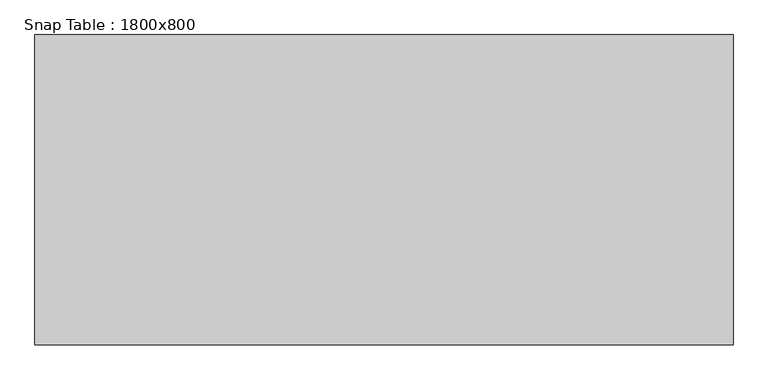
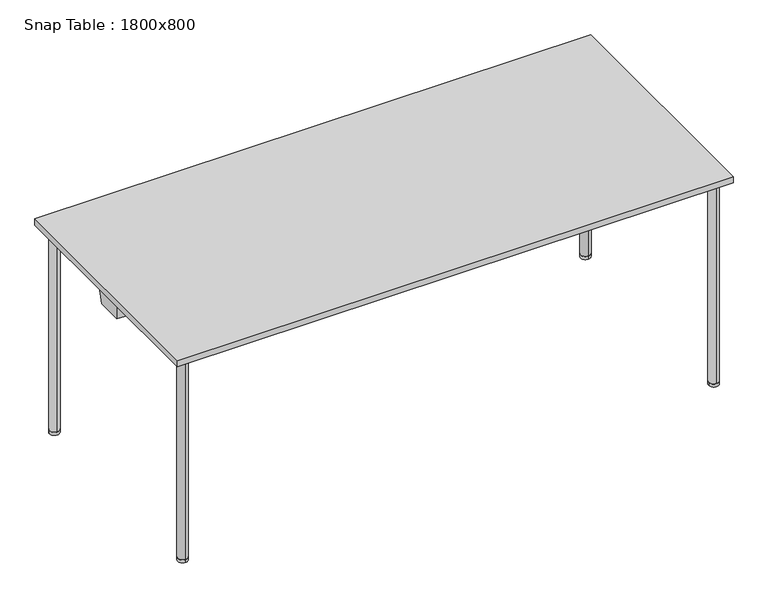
"""IFC4 building model written with IfcOpenShell, lengths in millimetres: furniture geometry, Snap Table : 1800x800."""

import ifcopenshell
import ifcopenshell.guid

model = None  # the IFC model being written
_history = None  # IfcOwnerHistory: only IFC2X3 demands one
_inside = {}  # id of a spatial element -> (the spatial element, [elements in it])
_under = {}  # id of a project, library or spatial element -> (it, [spatial elements below it])
_declared = {}  # id of a project -> (the project, [libraries it declares])
_typed = {}  # id of a type object -> (the type object, [elements of that type])
_made_of = {}  # id of a material, layer set ... -> (it, [elements and type objects made of it])


def new_model(schema):
    """Start an empty IFC model of exactly this schema.

    Asked for "IFC4X3", IfcOpenShell would pick the latest addendum, in which some entities
    have other attributes; the version numbers below select the first issue.
    IFC2X3 requires an IfcOwnerHistory on every rooted entity: one is made here for all.
    """
    global model, _history
    if schema == "IFC4X3":
        model = ifcopenshell.file(schema_version=(4, 3, 0, 0))
    else:
        model = ifcopenshell.file(schema=schema)
    _inside.clear()
    _under.clear()
    _declared.clear()
    _typed.clear()
    _made_of.clear()
    _history = None
    if model.schema == "IFC2X3":
        org = make("IfcOrganization", Name="unknown")
        user = make(
            "IfcPersonAndOrganization",
            ThePerson=make("IfcPerson", FamilyName="unknown"),
            TheOrganization=org,
        )
        app = make(
            "IfcApplication",
            ApplicationDeveloper=org,
            Version="unknown",
            ApplicationFullName="unknown",
            ApplicationIdentifier="unknown",
        )
        _history = make(
            "IfcOwnerHistory",
            OwningUser=user,
            OwningApplication=app,
            ChangeAction="ADDED",
            CreationDate=0,
        )
    return model


def make(cls, **values):
    """One entity of the class cls with the attributes given. An attribute that is None is left unset."""
    return model.create_entity(
        cls, **{name: value for name, value in values.items() if value is not None}
    )


def rooted(cls, **values):
    """An entity with a GlobalId (a new one), such as an element, a storey or a relation."""
    return make(cls, GlobalId=ifcopenshell.guid.new(), OwnerHistory=_history, **values)


def si_unit(unit_type, name, prefix=None):
    """IfcSIUnit, for example si_unit("LENGTHUNIT", "METRE", prefix="MILLI")."""
    return make("IfcSIUnit", UnitType=unit_type, Prefix=prefix, Name=name)


def assignment(units):
    """IfcUnitAssignment: the units of a project."""
    return None if units is None else make("IfcUnitAssignment", Units=units)


def point(xyz):
    """IfcCartesianPoint."""
    return None if xyz is None else make("IfcCartesianPoint", Coordinates=xyz)


def direction(xyz):
    """IfcDirection."""
    return None if xyz is None else make("IfcDirection", DirectionRatios=xyz)


def frame(location, z_axis=None, x_axis=None):
    """IfcAxis2Placement3D, a coordinate frame: its origin and axes. An axis left out is left unset."""
    return make(
        "IfcAxis2Placement3D",
        Location=point(location),
        Axis=direction(z_axis),
        RefDirection=direction(x_axis),
    )


def frame_2d(location, x_axis=None):
    """IfcAxis2Placement2D, a coordinate frame in the plane: its origin and x axis."""
    return make(
        "IfcAxis2Placement2D", Location=point(location), RefDirection=direction(x_axis)
    )


def origin():
    """The frame at (0, 0, 0) with its axes left unset."""
    return frame((0.0, 0.0, 0.0))


def origin_with_axes():
    """The frame at (0, 0, 0) with the z axis (0, 0, 1) and the x axis (1, 0, 0) written out."""
    return frame((0.0, 0.0, 0.0), z_axis=(0.0, 0.0, 1.0), x_axis=(1.0, 0.0, 0.0))


def place(relative_to, where):
    """IfcLocalPlacement: puts the frame where relative to a parent placement (None: the world)."""
    return make(
        "IfcLocalPlacement", PlacementRelTo=relative_to, RelativePlacement=where
    )


def context(
    kind, dimensions, precision=None, world=None, true_north=None, identifier=None
):
    """IfcGeometricRepresentationContext, for example the 3D "Model" context."""
    return make(
        "IfcGeometricRepresentationContext",
        ContextIdentifier=identifier,
        ContextType=kind,
        CoordinateSpaceDimension=dimensions,
        Precision=precision,
        WorldCoordinateSystem=world,
        TrueNorth=true_north,
    )


def project(units=None, contexts=None):
    """IfcProject with its units and contexts."""
    return rooted(
        "IfcProject",
        Name="project",
        RepresentationContexts=contexts,
        UnitsInContext=assignment(units),
    )


def spatial(cls, under=None, at=None, **own):
    """A site, building, storey or space (cls), placed at a placement, below another one or the project."""
    s = rooted(cls, ObjectPlacement=at, **own)
    if under is not None:
        _under.setdefault(under.id(), (under, []))[1].append(s)
    return s


def polyline(points):
    """IfcPolyline through the points."""
    return make("IfcPolyline", Points=[point(p) for p in points])


def circle_curve(where, radius):
    """IfcCircle in the frame where."""
    return make("IfcCircle", Position=where, Radius=radius)


def ellipse_curve(where, semi_axis1, semi_axis2):
    """IfcEllipse in the frame where."""
    return make(
        "IfcEllipse", Position=where, SemiAxis1=semi_axis1, SemiAxis2=semi_axis2
    )


def trimmed(basis, trim1, trim2, sense, master):
    """IfcTrimmedCurve: the piece of a basis curve between two trims."""
    return make(
        "IfcTrimmedCurve",
        BasisCurve=basis,
        Trim1=trim1,
        Trim2=trim2,
        SenseAgreement=sense,
        MasterRepresentation=master,
    )


def segment(curve, same_sense, transition):
    """IfcCompositeCurveSegment."""
    return make(
        "IfcCompositeCurveSegment",
        Transition=transition,
        SameSense=same_sense,
        ParentCurve=curve,
    )


def composite_curve(segments, self_intersect=None):
    """IfcCompositeCurve: segments joined end to end."""
    return make("IfcCompositeCurve", Segments=segments, SelfIntersect=self_intersect)


def outline(outer, holes=None, kind="AREA"):
    """IfcArbitraryClosedProfileDef: a profile drawn as a closed curve; with holes, ...WithVoids."""
    if holes is None:
        return make("IfcArbitraryClosedProfileDef", ProfileType=kind, OuterCurve=outer)
    return make(
        "IfcArbitraryProfileDefWithVoids",
        ProfileType=kind,
        OuterCurve=outer,
        InnerCurves=holes,
    )


def extrude(swept, where, along, depth):
    """IfcExtrudedAreaSolid: the profile swept, set in the frame where, extruded along a direction by depth."""
    return make(
        "IfcExtrudedAreaSolid",
        SweptArea=swept,
        Position=where,
        ExtrudedDirection=direction(along),
        Depth=depth,
    )


def faces_of(points, faces, orient=None, outer=None):
    """IfcFace entities. A face is a list of loops; a loop is a list of indices into points, from 0.

    orient and outer hold one flag for each loop. By default every Orientation is true, the
    first loop of a face is its IfcFaceOuterBound and the others are IfcFaceBound.
    """
    made = []
    for i, loops in enumerate(faces):
        bounds = []
        for j, loop in enumerate(loops):
            is_outer = j == 0 if outer is None else outer[i][j]
            bounds.append(
                make(
                    "IfcFaceOuterBound" if is_outer else "IfcFaceBound",
                    Bound=make("IfcPolyLoop", Polygon=[points[k] for k in loop]),
                    Orientation=True if orient is None else orient[i][j],
                )
            )
        made.append(make("IfcFace", Bounds=bounds))
    return made


def faceted_brep(points, faces, orient=None, outer=None, voids=None):
    """IfcFacetedBrep: a solid bounded by flat faces; with voids (closed shells), ...WithVoids."""
    shared = [point(p) for p in points]
    hull = make("IfcClosedShell", CfsFaces=faces_of(shared, faces, orient, outer))
    if voids is None:
        return make("IfcFacetedBrep", Outer=hull)
    return make(
        "IfcFacetedBrepWithVoids",
        Outer=hull,
        Voids=[
            make(cls, CfsFaces=faces_of(shared, fs, o, b)) for cls, fs, o, b in voids
        ],
    )


def shape(context_of_items, identifier, shape_type, items):
    """IfcShapeRepresentation: the items that make up one representation, for example the "Body"."""
    return make(
        "IfcShapeRepresentation",
        ContextOfItems=context_of_items,
        RepresentationIdentifier=identifier,
        RepresentationType=shape_type,
        Items=items,
    )


def source(mapping_origin, context_of_items, identifier, shape_type, items):
    """IfcRepresentationMap: a shape defined once, which mapped items show again and again."""
    return make(
        "IfcRepresentationMap",
        MappingOrigin=mapping_origin,
        MappedRepresentation=shape(context_of_items, identifier, shape_type, items),
    )


def transform(
    local_origin,
    x_axis=None,
    y_axis=None,
    z_axis=None,
    scale=None,
    scale2=None,
    scale3=None,
    uniform=True,
):
    """IfcCartesianTransformationOperator3D, or its non-uniform kind. x_axis, y_axis, z_axis: its Axis1, 2, 3."""
    if uniform:
        return make(
            "IfcCartesianTransformationOperator3D",
            Axis1=direction(x_axis),
            Axis2=direction(y_axis),
            LocalOrigin=point(local_origin),
            Scale=scale,
            Axis3=direction(z_axis),
        )
    return make(
        "IfcCartesianTransformationOperator3DnonUniform",
        Axis1=direction(x_axis),
        Axis2=direction(y_axis),
        LocalOrigin=point(local_origin),
        Scale=scale,
        Axis3=direction(z_axis),
        Scale2=scale2,
        Scale3=scale3,
    )


def mapped(mapping_source, mapping_target):
    """IfcMappedItem: shows the shape of a source again, moved by a transform."""
    return make(
        "IfcMappedItem", MappingSource=mapping_source, MappingTarget=mapping_target
    )


def made_of(thing, what):
    """Note that an element or type object is made of a material, layer set ...; save() writes the relation."""
    if what is not None:
        _made_of.setdefault(what.id(), (what, []))[1].append(thing)
    return thing


def element(
    cls,
    number,
    at=None,
    inside=None,
    cuts=None,
    type_object=None,
    material=None,
    context=None,
    identifier="Body",
    shape_type=None,
    held_by="IfcProductDefinitionShape",
    body=None,
    shapes=None,
    **own,
):
    """One element of the class cls, such as IfcWall. Its Tag is "e" and its number.

    at: its placement. inside: the storey or other place that contains it. cuts: it is an
    opening in that element (IfcRelVoidsElement). A single representation is given by context,
    identifier, shape_type and body (its items); several are given by shapes. held_by: the class
    of the entity that holds the representations. save() writes the other relations.
    """
    e = rooted(cls, Tag="e%d" % number, ObjectPlacement=at, **own)
    if body is not None:
        shapes = [shape(context, identifier, shape_type, body)]
    if shapes is not None:
        e.Representation = make(held_by, Representations=shapes)
    if inside is not None:
        _inside.setdefault(inside.id(), (inside, []))[1].append(e)
    if cuts is not None:
        rooted(
            "IfcRelVoidsElement", RelatingBuildingElement=cuts, RelatedOpeningElement=e
        )
    if type_object is not None:
        _typed.setdefault(type_object.id(), (type_object, []))[1].append(e)
    return made_of(e, material)


def aggregate(whole, parts):
    """IfcRelAggregates: a whole, such as a stair, and the parts it consists of."""
    return rooted("IfcRelAggregates", RelatingObject=whole, RelatedObjects=parts)


def save(model, path):
    """Write the relations noted so far, then the file.

    IfcRelAggregates (storeys below a building ...), IfcRelContainedInSpatialStructure (elements
    in a storey), IfcRelDefinesByType, IfcRelAssociatesMaterial and IfcRelDeclares: one each for
    every whole, place, type object, material and project.
    """
    for whole, parts in _under.values():
        aggregate(whole, parts)
    for where, things in _inside.values():
        rooted(
            "IfcRelContainedInSpatialStructure",
            RelatedElements=things,
            RelatingStructure=where,
        )
    for kind, things in _typed.values():
        rooted("IfcRelDefinesByType", RelatedObjects=things, RelatingType=kind)
    for what, things in _made_of.values():
        rooted("IfcRelAssociatesMaterial", RelatedObjects=things, RelatingMaterial=what)
    for by, libraries in _declared.values():
        rooted("IfcRelDeclares", RelatingContext=by, RelatedDefinitions=libraries)
    model.write(path)


def plane_surface(at):
    """IfcPlane: the flat surface through the origin of the frame at, square to its z axis."""
    return make("IfcPlane", Position=at)


def cylinder_surface(at, radius):
    """IfcCylindricalSurface: all points at the distance radius from the z axis of the frame at."""
    return make("IfcCylindricalSurface", Position=at, Radius=radius)


def revolved_surface(curve, axis_point, axis_direction):
    """IfcSurfaceOfRevolution: the curve turned about the line through axis_point along axis_direction."""
    return make(
        "IfcSurfaceOfRevolution",
        SweptCurve=make("IfcArbitraryOpenProfileDef", ProfileType="CURVE", Curve=curve),
        AxisPosition=make("IfcAxis1Placement", Location=point(axis_point), Axis=direction(axis_direction)),
    )


def advanced_brep(points, edges, surfaces, faces):
    """IfcAdvancedBrep: a solid bounded by faces that lie on surfaces and meet in shared edges.

    An edge is (start, end): straight between two places in points (the first is 0);
    or (start, end, curve); or (start, end, curve, False) where it runs against its curve.
    A face is (place in surfaces, loops), or (place, loops, False) where it looks against
    its surface's normal. A loop lists edges by number (the first is 1), with a minus sign
    where the edge is run from its end to its start. The first loop is the outer one.
    """
    corners = [point(p) for p in points]
    vertices = [make("IfcVertexPoint", VertexGeometry=c) for c in corners]
    made = []
    for start, end, *more in edges:
        made.append(
            make(
                "IfcEdgeCurve",
                EdgeStart=vertices[start],
                EdgeEnd=vertices[end],
                EdgeGeometry=more[0] if more else make("IfcPolyline", Points=[corners[start], corners[end]]),
                SameSense=more[1] if len(more) > 1 else True,
            )
        )
    hull = []
    for where, loops, *sense in faces:
        bounds = []
        for j, loop in enumerate(loops):
            ring = [make("IfcOrientedEdge", EdgeElement=made[abs(k) - 1], Orientation=k > 0) for k in loop]
            bounds.append(
                make(
                    "IfcFaceOuterBound" if j == 0 else "IfcFaceBound",
                    Bound=make("IfcEdgeLoop", EdgeList=ring),
                    Orientation=True,
                )
            )
        hull.append(make("IfcAdvancedFace", Bounds=bounds, FaceSurface=surfaces[where], SameSense=sense[0] if sense else True))
    return make("IfcAdvancedBrep", Outer=make("IfcClosedShell", CfsFaces=hull))


def snap_table_1800x800_0e8460ad(model_context):
    return source(origin(), model_context, "Body", "SolidModel", [
        extrude(outline(composite_curve([segment(trimmed(circle_curve(frame_2d((860.0, -360.0)), 16.0), [point((876.0, -360.0))], [point((844.0, -360.0))], False, "CARTESIAN"), True, "CONTINUOUS"), segment(trimmed(circle_curve(frame_2d((860.0, -360.0)), 16.0), [point((844.0, -360.0))], [point((876.0, -360.0))], False, "CARTESIAN"), True, "CONTINUOUS")], self_intersect=False)), origin_with_axes(), (0.0, 0.0, 1.0), 10.0),
        extrude(outline(composite_curve([segment(trimmed(circle_curve(frame_2d((860.0, 360.0)), 16.0), [point((860.0, 344.0))], [point((860.0, 376.0))], False, "CARTESIAN"), True, "CONTINUOUS"), segment(trimmed(circle_curve(frame_2d((860.0, 360.0)), 16.0), [point((860.0, 376.0))], [point((860.0, 344.0))], False, "CARTESIAN"), True, "CONTINUOUS")], self_intersect=False)), origin_with_axes(), (0.0, 0.0, 1.0), 10.0),
        advanced_brep(
        [(860.0, -376.0, 10.0), (860.0, -344.0, 10.0), (860.0, -376.0, 689.0), (860.0, -344.0, 657.0), (860.0, 376.0, 689.0), (860.0, 344.0, 657.0), (860.0, 376.0, 10.0), (860.0, 344.0, 10.0)],
        [
            (0, 1, circle_curve(frame((860.0, -360.0, 10.0), z_axis=(0.0, 0.0, -1.0), x_axis=(0.0, 1.0, 0.0)), 16.0)),
            (1, 0, circle_curve(frame((860.0, -360.0, 10.0), z_axis=(0.0, 0.0, -1.0), x_axis=(0.0, 1.0, 0.0)), 16.0)),
            (0, 2),
            (2, 3, ellipse_curve(frame((860.0, -360.0, 673.0), z_axis=(0.0, -0.7071067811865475, -0.7071067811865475), x_axis=(0.0, 0.7071067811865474, -0.7071067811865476)), 22.627417, 16.0)),
            (3, 1),
            (3, 2, ellipse_curve(frame((860.0, -360.0, 673.0), z_axis=(0.0, -0.7071067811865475, -0.7071067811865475), x_axis=(0.0, 0.7071067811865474, -0.7071067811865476)), 22.627417, 16.0)),
            (2, 4),
            (4, 5, ellipse_curve(frame((860.0, 360.0, 673.0), z_axis=(0.0, -0.7071067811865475, 0.7071067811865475), x_axis=(0.0, -0.7071067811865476, -0.7071067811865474)), 22.627417, 16.0)),
            (5, 3),
            (5, 4, ellipse_curve(frame((860.0, 360.0, 673.0), z_axis=(0.0, -0.7071067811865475, 0.7071067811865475), x_axis=(0.0, -0.7071067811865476, -0.7071067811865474)), 22.627417, 16.0)),
            (6, 7, circle_curve(frame((860.0, 360.0, 10.0), z_axis=(0.0, 0.0, -1.0), x_axis=(0.0, -1.0, 0.0)), 16.0)),
            (7, 6, circle_curve(frame((860.0, 360.0, 10.0), z_axis=(0.0, 0.0, -1.0), x_axis=(0.0, -1.0, 0.0)), 16.0)),
            (4, 6),
            (7, 5),
        ],
        [
            plane_surface(frame((860.0, -360.0, 10.0), z_axis=(0.0, 0.0, -1.0), x_axis=(-1.0, 0.0, 0.0))),
            cylinder_surface(frame((860.0, -360.0, 10.0), z_axis=(0.0, 0.0, -1.0), x_axis=(0.0, 1.0, 0.0)), 16.0),
            cylinder_surface(frame((860.0, -360.0, 673.0), z_axis=(0.0, -1.0, 0.0), x_axis=(0.0, 0.0, -1.0)), 16.0),
            plane_surface(frame((860.0, 360.0, 10.0), z_axis=(0.0, 0.0, -1.0), x_axis=(-1.0, 0.0, 0.0))),
            cylinder_surface(frame((860.0, 360.0, 673.0), z_axis=(0.0, 0.0, 1.0), x_axis=(0.0, -1.0, 0.0)), 16.0),
        ],
        [
            (0, [[1, 2]]),
            (1, [[-1, 3, 4, 5]]),
            (1, [[-2, -5, 6, -3]]),
            (2, [[-4, 7, 8, 9]]),
            (2, [[-6, -9, 10, -7]]),
            (3, [[11, 12]]),
            (4, [[-8, 13, -12, 14]]),
            (4, [[-10, -14, -11, -13]]),
        ],
    ),
        extrude(outline(composite_curve([segment(trimmed(circle_curve(frame_2d((-860.0470276, 360.0)), 16.0), [point((-876.0470276, 360.0))], [point((-844.0470276, 360.0))], False, "CARTESIAN"), True, "CONTINUOUS"), segment(trimmed(circle_curve(frame_2d((-860.0470276, 360.0)), 16.0), [point((-844.0470276, 360.0))], [point((-876.0470276, 360.0))], False, "CARTESIAN"), True, "CONTINUOUS")], self_intersect=False)), origin_with_axes(), (0.0, 0.0, 1.0), 10.0),
        extrude(outline(composite_curve([segment(trimmed(circle_curve(frame_2d((-860.0470276, -360.0)), 16.0), [point((-860.0470276, -344.0))], [point((-860.0470276, -376.0))], False, "CARTESIAN"), True, "CONTINUOUS"), segment(trimmed(circle_curve(frame_2d((-860.0470276, -360.0)), 16.0), [point((-860.0470276, -376.0))], [point((-860.0470276, -344.0))], False, "CARTESIAN"), True, "CONTINUOUS")], self_intersect=False)), origin_with_axes(), (0.0, 0.0, 1.0), 10.0),
        advanced_brep(
        [(-860.0470276, 376.0, 10.0), (-860.0470276, 344.0, 10.0), (-860.0470276, 376.0, 689.0), (-860.0470276, 344.0, 657.0), (-860.0470276, -376.0, 689.0), (-860.0470276, -344.0, 657.0), (-860.0470276, -376.0, 10.0), (-860.0470276, -344.0, 10.0)],
        [
            (0, 1, circle_curve(frame((-860.0470276, 360.0, 10.0), z_axis=(0.0, 0.0, -1.0), x_axis=(0.0, -1.0, 0.0)), 16.0)),
            (1, 0, circle_curve(frame((-860.0470276, 360.0, 10.0), z_axis=(0.0, 0.0, -1.0), x_axis=(0.0, -1.0, 0.0)), 16.0)),
            (0, 2),
            (2, 3, ellipse_curve(frame((-860.0470276, 360.0, 673.0), z_axis=(0.0, 0.7071067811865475, -0.7071067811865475), x_axis=(0.0, -0.7071067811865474, -0.7071067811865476)), 22.627417, 16.0)),
            (3, 1),
            (3, 2, ellipse_curve(frame((-860.0470276, 360.0, 673.0), z_axis=(0.0, 0.7071067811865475, -0.7071067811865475), x_axis=(0.0, -0.7071067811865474, -0.7071067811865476)), 22.627417, 16.0)),
            (2, 4),
            (4, 5, ellipse_curve(frame((-860.0470276, -360.0, 673.0), z_axis=(0.0, 0.7071067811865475, 0.7071067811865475), x_axis=(0.0, 0.7071067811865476, -0.7071067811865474)), 22.627417, 16.0)),
            (5, 3),
            (5, 4, ellipse_curve(frame((-860.0470276, -360.0, 673.0), z_axis=(0.0, 0.7071067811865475, 0.7071067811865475), x_axis=(0.0, 0.7071067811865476, -0.7071067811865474)), 22.627417, 16.0)),
            (6, 7, circle_curve(frame((-860.0470276, -360.0, 10.0), z_axis=(0.0, 0.0, -1.0), x_axis=(0.0, 1.0, 0.0)), 16.0)),
            (7, 6, circle_curve(frame((-860.0470276, -360.0, 10.0), z_axis=(0.0, 0.0, -1.0), x_axis=(0.0, 1.0, 0.0)), 16.0)),
            (4, 6),
            (7, 5),
        ],
        [
            plane_surface(frame((-860.0470276, 360.0, 10.0), z_axis=(0.0, 0.0, -1.0), x_axis=(1.0, 0.0, 0.0))),
            cylinder_surface(frame((-860.0470276, 360.0, 10.0), z_axis=(0.0, 0.0, -1.0), x_axis=(0.0, -1.0, 0.0)), 16.0),
            cylinder_surface(frame((-860.0470276, 360.0, 673.0), z_axis=(0.0, 1.0, 0.0), x_axis=(0.0, 0.0, -1.0)), 16.0),
            plane_surface(frame((-860.0470276, -360.0, 10.0), z_axis=(0.0, 0.0, -1.0), x_axis=(1.0, 0.0, 0.0))),
            cylinder_surface(frame((-860.0470276, -360.0, 673.0), z_axis=(0.0, 0.0, 1.0), x_axis=(0.0, 1.0, 0.0)), 16.0),
        ],
        [
            (0, [[1, 2]]),
            (1, [[-1, 3, 4, 5]]),
            (1, [[-2, -5, 6, -3]]),
            (2, [[-4, 7, 8, 9]]),
            (2, [[-6, -9, 10, -7]]),
            (3, [[11, 12]]),
            (4, [[-8, 13, -12, 14]]),
            (4, [[-10, -14, -11, -13]]),
        ],
    ),
        extrude(outline(polyline([(900.0, 400.0), (900.0, -400.0), (-900.0, -400.0), (-900.0, 400.0), (900.0, 400.0)])), frame((0.0, 0.0, 698.0), z_axis=(0.0, 0.0, 1.0), x_axis=(1.0, 0.0, 0.0)), (0.0, 0.0, 1.0), 22.0),
        advanced_brep(
        [(-890.8110657, 42.2236058, 643.0), (-857.6910354, 44.5767873, 643.0), (-840.5708933, 36.0824003, 643.0), (840.5710292, 36.0824678, 643.0), (857.6910354, 44.5767873, 643.0), (890.8110657, 42.2236058, 643.0), (890.8110657, -42.2236058, 643.0), (857.6044607, -44.2417031, 643.0), (840.4018781, -36.0497649, 643.0), (-840.4020196, -36.0498323, 643.0), (-857.6044607, -44.2417031, 643.0), (-890.8110657, -42.2236058, 643.0), (-894.8110657, 48.9570516, 698.0), (-894.8110657, -48.9934252, 698.0), (-856.225892, -51.3383995, 698.0), (-834.6205129, -41.049832, 698.0), (834.6203726, -41.0497652, 698.0), (856.225892, -51.3383995, 698.0), (894.8110657, -48.9934252, 698.0), (894.8110657, 48.9570516, 698.0), (856.286594, 51.6942192, 698.0), (834.8989768, 41.0824675, 698.0), (-834.8988421, 41.0824006, 698.0), (-856.286594, 51.6942192, 698.0), (-857.2475737, -46.0789118, 657.2385232), (-876.0, -46.9489596, 673.0), (-856.4614069, -50.125999, 688.6037931), (-844.0, -41.9922101, 673.0), (857.2475737, -46.0789118, 657.2385232), (844.0, -41.9922101, 673.0), (856.4614069, -50.125999, 688.6037931), (876.0, -46.9489596, 673.0), (857.3278029, 46.4175782, 657.2247231), (876.0, 47.1037405, 673.0), (856.5261576, 50.4801582, 688.618336), (844.0, 42.0461233, 673.0), (-857.3278029, 46.4175782, 657.2247231), (-844.0, 42.0461233, 673.0), (-856.5261576, 50.4801582, 688.618336), (-876.0, 47.1037405, 673.0)],
        [
            (0, 1),
            (1, 2),
            (2, 3),
            (3, 4),
            (4, 5),
            (5, 6),
            (6, 7),
            (7, 8),
            (8, 9),
            (9, 10),
            (10, 11),
            (11, 0),
            (12, 13),
            (13, 14),
            (14, 15),
            (15, 16),
            (16, 17),
            (17, 18),
            (18, 19),
            (19, 20),
            (20, 21),
            (21, 22),
            (22, 23),
            (23, 12),
            (11, 13),
            (12, 0),
            (10, 24),
            (24, 25, ellipse_curve(frame((-860.0, -47.9213432, 673.0), z_axis=(0.060176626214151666, 0.9901710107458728, 0.12625427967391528), x_axis=(0.426028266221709, -0.13986196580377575, 0.8938336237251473)), 16.1588249, 16.0)),
            (25, 26, ellipse_curve(frame((-860.0, -47.9213432, 673.0), z_axis=(0.060176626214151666, 0.9901710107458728, 0.12625427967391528), x_axis=(0.426028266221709, -0.13986196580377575, 0.8938336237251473)), 16.1588249, 16.0)),
            (26, 14),
            (9, 15),
            (26, 27, ellipse_curve(frame((-860.0, -49.6114737, 673.0), z_axis=(-0.4265030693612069, 0.8956310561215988, 0.12625427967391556), x_axis=(-0.8587935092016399, -0.44479771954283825, 0.25422174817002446)), 17.8644989, 16.0)),
            (27, 24, ellipse_curve(frame((-860.0, -49.6114737, 673.0), z_axis=(-0.4265030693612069, 0.8956310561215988, 0.12625427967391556), x_axis=(-0.8587935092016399, -0.44479771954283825, 0.25422174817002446)), 17.8644989, 16.0)),
            (8, 16),
            (7, 28),
            (28, 29, ellipse_curve(frame((860.0, -49.6114737, 673.0), z_axis=(0.4265030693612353, 0.8956310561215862, 0.12625427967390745), x_axis=(0.8587935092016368, -0.44479771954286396, 0.2542217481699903)), 17.8644989, 16.0)),
            (29, 30, ellipse_curve(frame((860.0, -49.6114737, 673.0), z_axis=(0.4265030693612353, 0.8956310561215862, 0.12625427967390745), x_axis=(0.8587935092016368, -0.44479771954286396, 0.2542217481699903)), 17.8644989, 16.0)),
            (30, 17),
            (6, 18),
            (30, 31, ellipse_curve(frame((860.0, -47.9213432, 673.0), z_axis=(-0.060176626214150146, 0.9901710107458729, 0.12625427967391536), x_axis=(-0.4260282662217, -0.13986196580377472, 0.8938336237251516)), 16.1588249, 16.0)),
            (31, 28, ellipse_curve(frame((860.0, -47.9213432, 673.0), z_axis=(-0.060176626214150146, 0.9901710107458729, 0.12625427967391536), x_axis=(-0.4260282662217, -0.13986196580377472, 0.8938336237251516)), 16.1588249, 16.0)),
            (5, 19),
            (4, 32),
            (32, 33, ellipse_curve(frame((860.0, 48.2405422, 673.0), z_axis=(-0.07030432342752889, -0.9895034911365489, 0.12625427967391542), x_axis=(0.4813983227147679, -0.14450896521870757, -0.8645072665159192)), 16.1697257, 16.0)),
            (33, 34, ellipse_curve(frame((860.0, 48.2405422, 673.0), z_axis=(-0.07030432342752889, -0.9895034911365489, 0.12625427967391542), x_axis=(0.4813983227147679, -0.14450896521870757, -0.8645072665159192)), 16.1697257, 16.0)),
            (34, 20),
            (3, 21),
            (34, 35, ellipse_curve(frame((860.0, 49.9847369, 673.0), z_axis=(0.4409053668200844, -0.8886294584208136, 0.12625427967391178), x_axis=(-0.8542943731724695, -0.4586258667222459, -0.24462918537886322)), 18.005255, 16.0)),
            (35, 32, ellipse_curve(frame((860.0, 49.9847369, 673.0), z_axis=(0.4409053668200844, -0.8886294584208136, 0.12625427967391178), x_axis=(-0.8542943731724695, -0.4586258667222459, -0.24462918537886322)), 18.005255, 16.0)),
            (2, 22),
            (1, 36),
            (36, 37, ellipse_curve(frame((-860.0, 49.9847369, 673.0), z_axis=(-0.44090536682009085, -0.8886294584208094, 0.12625427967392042), x_axis=(0.8542943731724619, -0.45862586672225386, -0.24462918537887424)), 18.005255, 16.0)),
            (37, 38, ellipse_curve(frame((-860.0, 49.9847369, 673.0), z_axis=(-0.44090536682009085, -0.8886294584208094, 0.12625427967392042), x_axis=(0.8542943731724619, -0.45862586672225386, -0.24462918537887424)), 18.005255, 16.0)),
            (38, 23),
            (38, 39, ellipse_curve(frame((-860.0, 48.2405422, 673.0), z_axis=(0.07030432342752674, -0.9895034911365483, 0.12625427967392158), x_axis=(-0.48139832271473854, -0.14450896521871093, -0.8645072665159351)), 16.1697257, 16.0)),
            (39, 36, ellipse_curve(frame((-860.0, 48.2405422, 673.0), z_axis=(0.07030432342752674, -0.9895034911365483, 0.12625427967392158), x_axis=(-0.48139832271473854, -0.14450896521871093, -0.8645072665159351)), 16.1697257, 16.0)),
            (35, 29),
            (31, 33),
            (39, 25),
            (27, 37),
        ],
        [
            plane_surface(frame((-5e-07, 0.0612866, 643.0), z_axis=(0.0, 0.0, -1.0), x_axis=(0.0, -1.0, 0.0))),
            plane_surface(frame((-5e-07, 0.0586803, 698.0), z_axis=(0.0, 0.0, 1.0), x_axis=(0.0, -1.0, 0.0))),
            plane_surface(frame((-894.8110657, -0.0181868, 698.0), z_axis=(-0.9973658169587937, 0.0, -0.07253569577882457), x_axis=(0.0, 1.0, 0.0))),
            plane_surface(frame((-875.5184789, -50.1659123, 698.0), z_axis=(-0.060176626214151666, -0.9901710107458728, -0.12625427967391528), x_axis=(-0.9981583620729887, 0.06066204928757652, 0.0))),
            plane_surface(frame((-845.4232025, -46.1941158, 698.0), z_axis=(0.4265030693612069, -0.8956310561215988, -0.12625427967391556), x_axis=(-0.9028557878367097, -0.4299435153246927, 0.0))),
            plane_surface(frame((-7.01e-05, -41.0497986, 698.0), z_axis=(3.994004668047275e-08, -0.9958932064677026, -0.09053574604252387), x_axis=(-0.9999999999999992, -4.010474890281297e-08, 0.0))),
            plane_surface(frame((845.4231323, -46.1940824, 698.0), z_axis=(-0.4265030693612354, -0.8956310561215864, -0.12625427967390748), x_axis=(-0.9028557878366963, 0.42994351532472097, 0.0))),
            plane_surface(frame((875.5184789, -50.1659123, 698.0), z_axis=(0.060176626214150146, -0.9901710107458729, -0.12625427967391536), x_axis=(-0.9981583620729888, -0.06066204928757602, 0.0))),
            plane_surface(frame((894.8110657, -0.0181868, 698.0), z_axis=(0.997365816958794, 0.0, -0.07253569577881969), x_axis=(0.0, -1.0, 0.0))),
            plane_surface(frame((875.5488298, 50.3256354, 698.0), z_axis=(0.07030432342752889, 0.9895034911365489, -0.12625427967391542), x_axis=(0.9974854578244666, -0.07087144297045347, 0.0))),
            plane_surface(frame((845.5927854, 46.3883433, 698.0), z_axis=(-0.4409053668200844, 0.8886294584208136, -0.12625427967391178), x_axis=(0.8957977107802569, 0.44446199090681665, 0.0))),
            plane_surface(frame((6.73e-05, 41.082434, 698.0), z_axis=(-3.994255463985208e-08, 0.9958932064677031, -0.0905357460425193), x_axis=(0.9999999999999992, 4.010726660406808e-08, 0.0))),
            plane_surface(frame((-845.5927181, 46.3883099, 698.0), z_axis=(0.44090536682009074, 0.8886294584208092, -0.1262542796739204), x_axis=(0.8957977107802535, -0.4444619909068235, 0.0))),
            plane_surface(frame((-875.5488298, 50.3256354, 698.0), z_axis=(-0.07030432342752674, 0.9895034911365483, -0.12625427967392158), x_axis=(0.9974854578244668, 0.07087144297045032, 0.0))),
            revolved_surface(polyline([(876.0, -57.55756207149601, 673.0), (876.0, 58.242412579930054, 673.0)]), (860.0, 70.0, 673.0), (0.0, -1.0, 0.0)),
            revolved_surface(polyline([(-876.0, -57.55756207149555, 673.0), (-876.0, 58.242412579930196, 673.0)]), (-860.0, 70.0, 673.0), (0.0, -1.0, 0.0)),
        ],
        [
            (0, [[1, 2, 3, 4, 5, 6, 7, 8, 9, 10, 11, 12]]),
            (1, [[13, 14, 15, 16, 17, 18, 19, 20, 21, 22, 23, 24]]),
            (2, [[-12, 25, -13, 26]]),
            (3, [[-11, 27, 28, 29, 30, -14, -25]]),
            (4, [[-10, 31, -15, -30, 32, 33, -27]]),
            (5, [[-9, 34, -16, -31]]),
            (6, [[-8, 35, 36, 37, 38, -17, -34]]),
            (7, [[-7, 39, -18, -38, 40, 41, -35]]),
            (8, [[-6, 42, -19, -39]]),
            (9, [[-5, 43, 44, 45, 46, -20, -42]]),
            (10, [[-4, 47, -21, -46, 48, 49, -43]]),
            (11, [[-3, 50, -22, -47]]),
            (12, [[-2, 51, 52, 53, 54, -23, -50]]),
            (13, [[-1, -26, -24, -54, 55, 56, -51]]),
            (14, [[57, -36, -41, 58, -44, -49]]),
            (14, [[-57, -48, -45, -58, -40, -37]]),
            (15, [[59, -28, -33, 60, -52, -56]]),
            (15, [[-59, -55, -53, -60, -32, -29]]),
        ],
    ),
        faceted_brep([(830.1271057, 282.1409864, 643.0), (830.1271057, 327.0366315, 643.0), (841.3990784, 327.0366315, 643.0), (841.3990784, 282.1409864, 643.0), (826.2186584, 278.0138349, 688.0), (844.2631531, 278.0138349, 688.0), (844.2631531, 331.163783, 688.0), (826.2186584, 331.163783, 688.0)], [[[0, 1, 2, 3]], [[4, 5, 6, 7]], [[5, 4, 0, 3]], [[6, 5, 3, 2]], [[7, 6, 2, 1]], [[4, 7, 1, 0]]]),
        extrude(outline(polyline([(826.2186584, 331.163783), (877.86026, 331.163783), (877.86026, 278.0138349), (826.2186584, 278.0138349), (826.2186584, 331.163783)])), frame((0.0, 0.0, 688.0), z_axis=(0.0, 0.0, 1.0), x_axis=(1.0, 0.0, 0.0)), (0.0, 0.0, 1.0), 10.0),
        faceted_brep([(830.1271057, -282.1409864, 643.0), (841.3990784, -282.1409864, 643.0), (841.3990784, -327.0366315, 643.0), (830.1271057, -327.0366315, 643.0), (826.2186584, -278.0138349, 688.0), (826.2186584, -331.163783, 688.0), (844.2631531, -331.163783, 688.0), (844.2631531, -278.0138349, 688.0)], [[[0, 1, 2, 3]], [[4, 5, 6, 7]], [[4, 7, 1, 0]], [[7, 6, 2, 1]], [[6, 5, 3, 2]], [[5, 4, 0, 3]]]),
        extrude(outline(polyline([(826.2186584, -331.163783), (826.2186584, -278.0138349), (877.86026, -278.0138349), (877.86026, -331.163783), (826.2186584, -331.163783)])), frame((0.0, 0.0, 688.0), z_axis=(0.0, 0.0, 1.0), x_axis=(1.0, 0.0, 0.0)), (0.0, 0.0, 1.0), 10.0),
        faceted_brep([(-830.1271057, 282.1409864, 643.0), (-841.3990784, 282.1409864, 643.0), (-841.3990784, 327.0366315, 643.0), (-830.1271057, 327.0366315, 643.0), (-826.2186584, 278.0138349, 688.0), (-826.2186584, 331.163783, 688.0), (-844.2631531, 331.163783, 688.0), (-844.2631531, 278.0138349, 688.0)], [[[0, 1, 2, 3]], [[4, 5, 6, 7]], [[4, 7, 1, 0]], [[7, 6, 2, 1]], [[6, 5, 3, 2]], [[5, 4, 0, 3]]]),
        extrude(outline(polyline([(-826.2186584, 331.163783), (-826.2186584, 278.0138349), (-877.86026, 278.0138349), (-877.86026, 331.163783), (-826.2186584, 331.163783)])), frame((0.0, 0.0, 688.0), z_axis=(0.0, 0.0, 1.0), x_axis=(1.0, 0.0, 0.0)), (0.0, 0.0, 1.0), 10.0),
        faceted_brep([(-830.1271057, -282.1409864, 643.0), (-830.1271057, -327.0366315, 643.0), (-841.3990784, -327.0366315, 643.0), (-841.3990784, -282.1409864, 643.0), (-826.2186584, -278.0138349, 688.0), (-844.2631531, -278.0138349, 688.0), (-844.2631531, -331.163783, 688.0), (-826.2186584, -331.163783, 688.0)], [[[0, 1, 2, 3]], [[4, 5, 6, 7]], [[5, 4, 0, 3]], [[6, 5, 3, 2]], [[7, 6, 2, 1]], [[4, 7, 1, 0]]]),
        extrude(outline(polyline([(-826.2186584, -331.163783), (-877.86026, -331.163783), (-877.86026, -278.0138349), (-826.2186584, -278.0138349), (-826.2186584, -331.163783)])), frame((0.0, 0.0, 688.0), z_axis=(0.0, 0.0, 1.0), x_axis=(1.0, 0.0, 0.0)), (0.0, 0.0, 1.0), 10.0),
    ])


if __name__ == "__main__":
    model = new_model("IFC4")
    model_context = context("Model", 3, world=origin())
    ifc_project = project(units=[si_unit("LENGTHUNIT", "METRE", prefix="MILLI")], contexts=[model_context])
    site = spatial("IfcSite", under=ifc_project)
    building = spatial("IfcBuilding", under=site)
    placement = place(None, origin())
    snap_table_1800x800_shape = snap_table_1800x800_0e8460ad(model_context)
    element("IfcFurniture", 1, ObjectType="Snap Table : 1800x800", at=placement, inside=building, context=model_context, shape_type="MappedRepresentation", body=[
        mapped(snap_table_1800x800_shape, transform((0.0, 0.0, 0.0), x_axis=(1.0, 0.0, 0.0), y_axis=(0.0, 1.0, 0.0), z_axis=(0.0, 0.0, 1.0))),
    ])
    save(model, "model.ifc")
